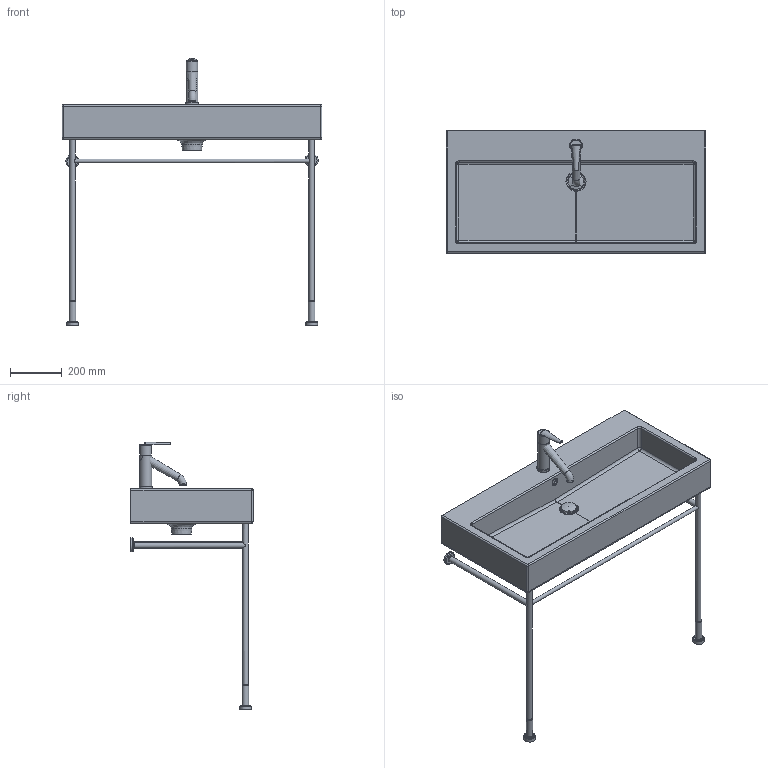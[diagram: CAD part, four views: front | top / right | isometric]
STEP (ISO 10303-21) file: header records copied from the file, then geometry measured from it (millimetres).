
FILE_DESCRIPTION((''),'2;1');
FILE_NAME('C:\Dokumente und Einstellungen\Huebner\Eigene Dateien\Koordinaten\045410_1_0030671.stp','2008-11-18T22:41:43',('Huebner'),(''),'Autodesk Inventor 11','Autodesk Inventor 11','');
FILE_SCHEMA(('AUTOMOTIVE_DESIGN { 1 0 10303 214 1 1 1 1 }'));
Length unit declared in the file: millimetre
Products named in the file (10): 045410_1_0030671; Gestel715x920_Ableitung; 045410_1d; Kelch; Stopfen; Hebel150vorlage; hebel1; Hebel1_150neu; Neoperl; Griff
Assembly tree (9 placements, depth 3):
  045410_1_0030671
    Gestel715x920_Ableitung
    045410_1d
    Kelch
    Stopfen
    Hebel150vorlage
      hebel1
      Hebel1_150neu
      Neoperl
      Griff
Bounding box: 1000 x 470 x 1029.34 mm (x, y, z)
Volume: 24926659.9 mm3; surface area: 2001340.6 mm2
Topology: 8 solids, 8 shells, 168 faces, 371 edges, 220 vertices
Faces by surface type: cylinder 61, plane 54, bspline 22, torus 19, cone 10, sphere 2
Full cylindrical faces by diameter (mm): 15 x1, 16 x1, 20 x1, 21 x4, 25 x7, 35 x2, 42 x1, 44 x1, 45 x3, 46 x1, 50 x3, 52 x1, 60 x1
Entity records: 7159 total; most frequent: CARTESIAN_POINT 3520, DIRECTION 759, ORIENTED_EDGE 594, AXIS2_PLACEMENT_3D 326, EDGE_CURVE 297, EDGE_LOOP 248, VERTEX_POINT 209, FACE_OUTER_BOUND 168
